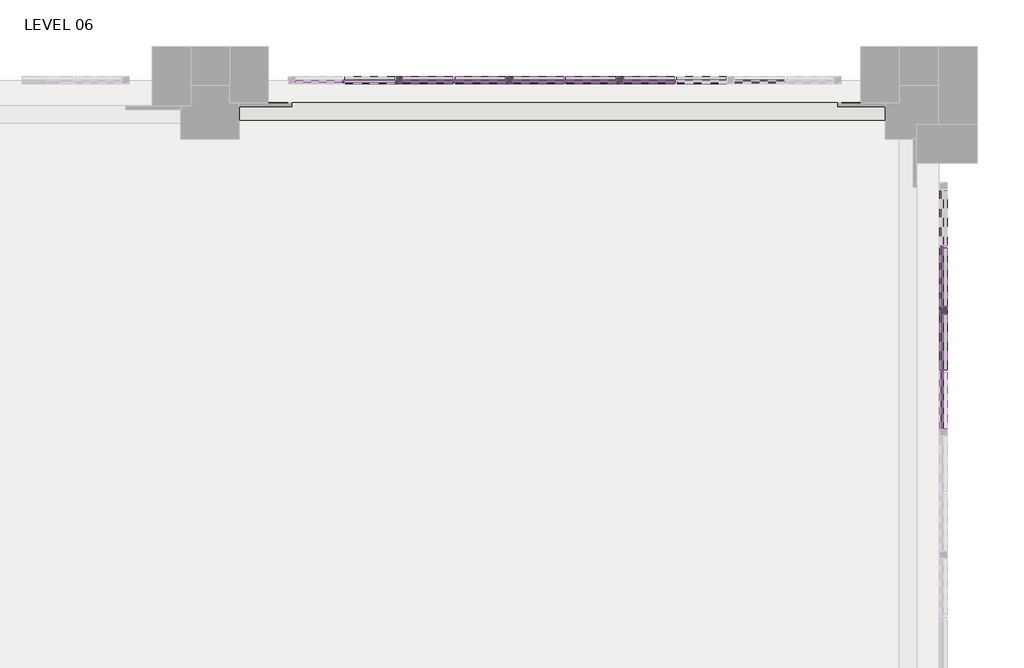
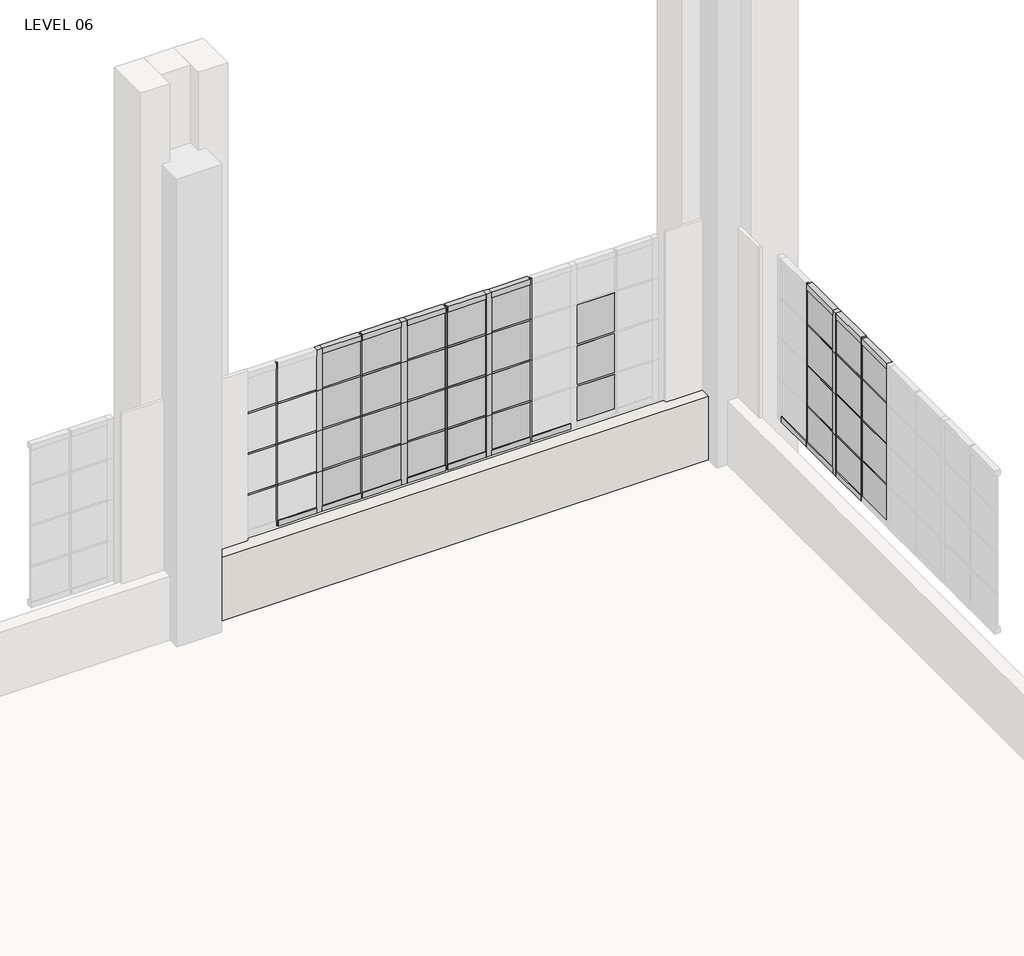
# One storey, part 15 of 16: 88 members, 35 plates, 1 wall.
"""IFC4 building model written with IfcOpenShell, lengths in millimetres."""

from ifc_helpers import new_model, si_unit, frame, origin, place, context, project, spatial, polyline, outline, extrude, transform, mapped, element, save
from components import member_78bb2ef1, member_d9fe2114, member_fd592df6, member_eeb356eb, member_dcd82389, member_f013a865, member_378e0c06, member_6e5aab5d, member_bacafba3, member_141a1acd, member_fd366a57, member_934bc167, system_panel_glazed_938f432d, system_panel_glazed_ccb3424d, system_panel_glazed_28c059df, system_panel_glazed_11270c83, system_panel_glazed_8b5984c8, system_panel_glazed_ea9a5d31, system_panel_glazed_44697018, system_panel_glazed_bf1454fd

model = new_model("IFC4")

# Units and contexts
model_context = context("Model", 3, world=origin())
ifc_project = project(units=[si_unit("LENGTHUNIT", "METRE", prefix="MILLI")], contexts=[model_context])

# Site, building, storey
site = spatial("IfcSite", under=ifc_project)
building = spatial("IfcBuilding", under=site)
storey = spatial("IfcBuildingStorey", under=building, Name="LEVEL 06", Elevation=17449.8)

# Members
placement = place(None, origin())
member_shape = member_78bb2ef1(model_context)
element("IfcMember", 1, ObjectType="Rectangular Mullion : 1\" x 1\" - Butt Joint", at=placement, inside=storey, context=model_context, shape_type="MappedRepresentation", body=[
    mapped(member_shape, transform((-445.6849596, -3421.3746451, 19989.8), x_axis=(0.0, 1.0, 0.0), y_axis=(1.0, 0.0, 0.0), z_axis=(0.0, 0.0, -1.0))),
])
element("IfcMember", 2, ObjectType="Rectangular Mullion : 1\" x 1\" - Butt Joint", at=placement, inside=storey, context=model_context, shape_type="MappedRepresentation", body=[
    mapped(member_shape, transform((-445.6849596, -2133.1748817, 19989.8), x_axis=(0.0, 1.0, 0.0), y_axis=(1.0, 0.0, 0.0), z_axis=(0.0, 0.0, -1.0))),
])
element("IfcMember", 3, ObjectType="Rectangular Mullion : 1\" x 1\" - Butt Joint", at=placement, inside=storey, context=model_context, shape_type="MappedRepresentation", body=[
    mapped(member_shape, transform((-445.6849596, -3421.3746451, 18821.4), x_axis=(0.0, 1.0, 0.0), y_axis=(1.0, 0.0, 0.0), z_axis=(0.0, 0.0, -1.0))),
])
element("IfcMember", 4, ObjectType="Rectangular Mullion : 1\" x 1\" - Butt Joint", at=placement, inside=storey, context=model_context, shape_type="MappedRepresentation", body=[
    mapped(member_shape, transform((-445.6849596, -3421.3746451, 19405.6), x_axis=(0.0, 1.0, 0.0), y_axis=(1.0, 0.0, 0.0), z_axis=(0.0, 0.0, -1.0))),
])
element("IfcMember", 5, ObjectType="Rectangular Mullion : 1\" x 1\" - Butt Joint", at=placement, inside=storey, context=model_context, shape_type="MappedRepresentation", body=[
    mapped(member_shape, transform((-445.6849596, -2133.1748817, 18821.4), x_axis=(0.0, 1.0, 0.0), y_axis=(1.0, 0.0, 0.0), z_axis=(0.0, 0.0, -1.0))),
])
element("IfcMember", 6, ObjectType="Rectangular Mullion : 1\" x 1\" - Butt Joint", at=placement, inside=storey, context=model_context, shape_type="MappedRepresentation", body=[
    mapped(member_shape, transform((-445.6849596, -2133.1748817, 19405.6), x_axis=(0.0, 1.0, 0.0), y_axis=(1.0, 0.0, 0.0), z_axis=(0.0, 0.0, -1.0))),
])
element("IfcMember", 7, ObjectType="Rectangular Mullion : 1\" x 1\" - Butt Joint", at=placement, inside=storey, context=model_context, shape_type="MappedRepresentation", body=[
    mapped(member_shape, transform((-445.6849596, -3421.3746451, 18237.2), x_axis=(0.0, 1.0, 0.0), y_axis=(1.0, 0.0, 0.0), z_axis=(0.0, 0.0, -1.0))),
])
element("IfcMember", 8, ObjectType="Rectangular Mullion : 1\" x 1\" - Butt Joint", at=placement, inside=storey, context=model_context, shape_type="MappedRepresentation", body=[
    mapped(member_shape, transform((-445.6849596, -2133.1748817, 18237.2), x_axis=(0.0, 1.0, 0.0), y_axis=(1.0, 0.0, 0.0), z_axis=(0.0, 0.0, -1.0))),
])
member_2_shape = member_d9fe2114(model_context)
element("IfcMember", 9, ObjectType="Rectangular Mullion : 1\" x 1\" - Butt Joint", at=placement, inside=storey, context=model_context, shape_type="MappedRepresentation", body=[
    mapped(member_2_shape, transform((-6124.4171519, -412.75, 19989.8), x_axis=(0.0, 0.0, 1.0), y_axis=(0.0, -1.0, 0.0), z_axis=(1.0, 0.0, 0.0))),
])
element("IfcMember", 10, ObjectType="Rectangular Mullion : 1\" x 1\" - Butt Joint", at=placement, inside=storey, context=model_context, shape_type="MappedRepresentation", body=[
    mapped(member_2_shape, transform((-4976.3371519, -412.75, 19989.8), x_axis=(0.0, 0.0, 1.0), y_axis=(0.0, -1.0, 0.0), z_axis=(1.0, 0.0, 0.0))),
])
element("IfcMember", 11, ObjectType="Rectangular Mullion : 1\" x 1\" - Butt Joint", at=placement, inside=storey, context=model_context, shape_type="MappedRepresentation", body=[
    mapped(member_2_shape, transform((-3828.2571519, -412.75, 19989.8), x_axis=(0.0, 0.0, 1.0), y_axis=(0.0, -1.0, 0.0), z_axis=(1.0, 0.0, 0.0))),
])
element("IfcMember", 12, ObjectType="Rectangular Mullion : 1\" x 1\" - Butt Joint", at=placement, inside=storey, context=model_context, shape_type="MappedRepresentation", body=[
    mapped(member_2_shape, transform((-5524.9771519, -412.75, 19989.8), x_axis=(0.0, 0.0, 1.0), y_axis=(0.0, -1.0, 0.0), z_axis=(1.0, 0.0, 0.0))),
])
element("IfcMember", 13, ObjectType="Rectangular Mullion : 1\" x 1\" - Butt Joint", at=placement, inside=storey, context=model_context, shape_type="MappedRepresentation", body=[
    mapped(member_2_shape, transform((-4376.8971519, -412.75, 19989.8), x_axis=(0.0, 0.0, 1.0), y_axis=(0.0, -1.0, 0.0), z_axis=(1.0, 0.0, 0.0))),
])
element("IfcMember", 14, ObjectType="Rectangular Mullion : 1\" x 1\" - Butt Joint", at=placement, inside=storey, context=model_context, shape_type="MappedRepresentation", body=[
    mapped(member_2_shape, transform((-3228.8171519, -412.75, 19989.8), x_axis=(0.0, 0.0, 1.0), y_axis=(0.0, -1.0, 0.0), z_axis=(1.0, 0.0, 0.0))),
])
element("IfcMember", 15, ObjectType="Rectangular Mullion : 1\" x 1\" - Butt Joint", at=placement, inside=storey, context=model_context, shape_type="MappedRepresentation", body=[
    mapped(member_2_shape, transform((-6124.4171519, -412.75, 19405.6), x_axis=(0.0, 0.0, 1.0), y_axis=(0.0, -1.0, 0.0), z_axis=(1.0, 0.0, 0.0))),
])
element("IfcMember", 16, ObjectType="Rectangular Mullion : 1\" x 1\" - Butt Joint", at=placement, inside=storey, context=model_context, shape_type="MappedRepresentation", body=[
    mapped(member_2_shape, transform((-4976.3371519, -412.75, 19405.6), x_axis=(0.0, 0.0, 1.0), y_axis=(0.0, -1.0, 0.0), z_axis=(1.0, 0.0, 0.0))),
])
element("IfcMember", 17, ObjectType="Rectangular Mullion : 1\" x 1\" - Butt Joint", at=placement, inside=storey, context=model_context, shape_type="MappedRepresentation", body=[
    mapped(member_2_shape, transform((-3828.2571519, -412.75, 19405.6), x_axis=(0.0, 0.0, 1.0), y_axis=(0.0, -1.0, 0.0), z_axis=(1.0, 0.0, 0.0))),
])
element("IfcMember", 18, ObjectType="Rectangular Mullion : 1\" x 1\" - Butt Joint", at=placement, inside=storey, context=model_context, shape_type="MappedRepresentation", body=[
    mapped(member_2_shape, transform((-5524.9771519, -412.75, 19405.6), x_axis=(0.0, 0.0, 1.0), y_axis=(0.0, -1.0, 0.0), z_axis=(1.0, 0.0, 0.0))),
])
element("IfcMember", 19, ObjectType="Rectangular Mullion : 1\" x 1\" - Butt Joint", at=placement, inside=storey, context=model_context, shape_type="MappedRepresentation", body=[
    mapped(member_2_shape, transform((-4376.8971519, -412.75, 19405.6), x_axis=(0.0, 0.0, 1.0), y_axis=(0.0, -1.0, 0.0), z_axis=(1.0, 0.0, 0.0))),
])
element("IfcMember", 20, ObjectType="Rectangular Mullion : 1\" x 1\" - Butt Joint", at=placement, inside=storey, context=model_context, shape_type="MappedRepresentation", body=[
    mapped(member_2_shape, transform((-3228.8171519, -412.75, 19405.6), x_axis=(0.0, 0.0, 1.0), y_axis=(0.0, -1.0, 0.0), z_axis=(1.0, 0.0, 0.0))),
])
element("IfcMember", 21, ObjectType="Rectangular Mullion : 1\" x 1\" - Butt Joint", at=placement, inside=storey, context=model_context, shape_type="MappedRepresentation", body=[
    mapped(member_2_shape, transform((-6124.4171519, -412.75, 18821.4), x_axis=(0.0, 0.0, 1.0), y_axis=(0.0, -1.0, 0.0), z_axis=(1.0, 0.0, 0.0))),
])
element("IfcMember", 22, ObjectType="Rectangular Mullion : 1\" x 1\" - Butt Joint", at=placement, inside=storey, context=model_context, shape_type="MappedRepresentation", body=[
    mapped(member_2_shape, transform((-4976.3371519, -412.75, 18821.4), x_axis=(0.0, 0.0, 1.0), y_axis=(0.0, -1.0, 0.0), z_axis=(1.0, 0.0, 0.0))),
])
element("IfcMember", 23, ObjectType="Rectangular Mullion : 1\" x 1\" - Butt Joint", at=placement, inside=storey, context=model_context, shape_type="MappedRepresentation", body=[
    mapped(member_2_shape, transform((-3828.2571519, -412.75, 18821.4), x_axis=(0.0, 0.0, 1.0), y_axis=(0.0, -1.0, 0.0), z_axis=(1.0, 0.0, 0.0))),
])
element("IfcMember", 24, ObjectType="Rectangular Mullion : 1\" x 1\" - Butt Joint", at=placement, inside=storey, context=model_context, shape_type="MappedRepresentation", body=[
    mapped(member_2_shape, transform((-5524.9771519, -412.75, 18821.4), x_axis=(0.0, 0.0, 1.0), y_axis=(0.0, -1.0, 0.0), z_axis=(1.0, 0.0, 0.0))),
])
element("IfcMember", 25, ObjectType="Rectangular Mullion : 1\" x 1\" - Butt Joint", at=placement, inside=storey, context=model_context, shape_type="MappedRepresentation", body=[
    mapped(member_2_shape, transform((-4376.8971519, -412.75, 18821.4), x_axis=(0.0, 0.0, 1.0), y_axis=(0.0, -1.0, 0.0), z_axis=(1.0, 0.0, 0.0))),
])
element("IfcMember", 26, ObjectType="Rectangular Mullion : 1\" x 1\" - Butt Joint", at=placement, inside=storey, context=model_context, shape_type="MappedRepresentation", body=[
    mapped(member_2_shape, transform((-3228.8171519, -412.75, 18821.4), x_axis=(0.0, 0.0, 1.0), y_axis=(0.0, -1.0, 0.0), z_axis=(1.0, 0.0, 0.0))),
])
member_3_shape = member_fd592df6(model_context)
element("IfcMember", 27, ObjectType="Rectangular Mullion : 1\" x 1\" - Butt Joint", at=placement, inside=storey, context=model_context, shape_type="MappedRepresentation", body=[
    mapped(member_3_shape, transform((-6673.0571519, -412.75, 19989.8), x_axis=(0.0, 0.0, 1.0), y_axis=(0.0, -1.0, 0.0), z_axis=(1.0, 0.0, 0.0))),
])
element("IfcMember", 28, ObjectType="Rectangular Mullion : 1\" x 1\" - Butt Joint", at=placement, inside=storey, context=model_context, shape_type="MappedRepresentation", body=[
    mapped(member_3_shape, transform((-6673.0571519, -412.75, 19405.6), x_axis=(0.0, 0.0, 1.0), y_axis=(0.0, -1.0, 0.0), z_axis=(1.0, 0.0, 0.0))),
])
element("IfcMember", 29, ObjectType="Rectangular Mullion : 1\" x 1\" - Butt Joint", at=placement, inside=storey, context=model_context, shape_type="MappedRepresentation", body=[
    mapped(member_3_shape, transform((-6673.0571519, -412.75, 18821.4), x_axis=(0.0, 0.0, 1.0), y_axis=(0.0, -1.0, 0.0), z_axis=(1.0, 0.0, 0.0))),
])
element("IfcMember", 30, ObjectType="Rectangular Mullion : 1\" x 1\" - Butt Joint", at=placement, inside=storey, context=model_context, shape_type="MappedRepresentation", body=[
    mapped(member_shape, transform((-3216.1171519, -412.75, 19989.8), x_axis=(1.0, 0.0, 0.0), y_axis=(0.0, -1.0, 0.0), z_axis=(0.0, 0.0, -1.0))),
])
element("IfcMember", 31, ObjectType="Rectangular Mullion : 1\" x 1\" - Butt Joint", at=placement, inside=storey, context=model_context, shape_type="MappedRepresentation", body=[
    mapped(member_shape, transform((-4364.1971519, -412.75, 19989.8), x_axis=(1.0, 0.0, 0.0), y_axis=(0.0, -1.0, 0.0), z_axis=(0.0, 0.0, -1.0))),
])
element("IfcMember", 32, ObjectType="Rectangular Mullion : 1\" x 1\" - Butt Joint", at=placement, inside=storey, context=model_context, shape_type="MappedRepresentation", body=[
    mapped(member_shape, transform((-5512.2771519, -412.75, 19989.8), x_axis=(1.0, 0.0, 0.0), y_axis=(0.0, -1.0, 0.0), z_axis=(0.0, 0.0, -1.0))),
])
element("IfcMember", 33, ObjectType="Rectangular Mullion : 1\" x 1\" - Butt Joint", at=placement, inside=storey, context=model_context, shape_type="MappedRepresentation", body=[
    mapped(member_shape, transform((-6660.3571519, -412.75, 19989.8), x_axis=(1.0, 0.0, 0.0), y_axis=(0.0, -1.0, 0.0), z_axis=(0.0, 0.0, -1.0))),
])
element("IfcMember", 34, ObjectType="Rectangular Mullion : 1\" x 1\" - Butt Joint", at=placement, inside=storey, context=model_context, shape_type="MappedRepresentation", body=[
    mapped(member_shape, transform((-3216.1171519, -412.75, 18821.4), x_axis=(1.0, 0.0, 0.0), y_axis=(0.0, -1.0, 0.0), z_axis=(0.0, 0.0, -1.0))),
])
element("IfcMember", 35, ObjectType="Rectangular Mullion : 1\" x 1\" - Butt Joint", at=placement, inside=storey, context=model_context, shape_type="MappedRepresentation", body=[
    mapped(member_shape, transform((-3216.1171519, -412.75, 19405.6), x_axis=(1.0, 0.0, 0.0), y_axis=(0.0, -1.0, 0.0), z_axis=(0.0, 0.0, -1.0))),
])
element("IfcMember", 36, ObjectType="Rectangular Mullion : 1\" x 1\" - Butt Joint", at=placement, inside=storey, context=model_context, shape_type="MappedRepresentation", body=[
    mapped(member_shape, transform((-4364.1971519, -412.75, 18821.4), x_axis=(1.0, 0.0, 0.0), y_axis=(0.0, -1.0, 0.0), z_axis=(0.0, 0.0, -1.0))),
])
element("IfcMember", 37, ObjectType="Rectangular Mullion : 1\" x 1\" - Butt Joint", at=placement, inside=storey, context=model_context, shape_type="MappedRepresentation", body=[
    mapped(member_shape, transform((-4364.1971519, -412.75, 19405.6), x_axis=(1.0, 0.0, 0.0), y_axis=(0.0, -1.0, 0.0), z_axis=(0.0, 0.0, -1.0))),
])
element("IfcMember", 38, ObjectType="Rectangular Mullion : 1\" x 1\" - Butt Joint", at=placement, inside=storey, context=model_context, shape_type="MappedRepresentation", body=[
    mapped(member_shape, transform((-5512.2771519, -412.75, 18821.4), x_axis=(1.0, 0.0, 0.0), y_axis=(0.0, -1.0, 0.0), z_axis=(0.0, 0.0, -1.0))),
])
element("IfcMember", 39, ObjectType="Rectangular Mullion : 1\" x 1\" - Butt Joint", at=placement, inside=storey, context=model_context, shape_type="MappedRepresentation", body=[
    mapped(member_shape, transform((-5512.2771519, -412.75, 19405.6), x_axis=(1.0, 0.0, 0.0), y_axis=(0.0, -1.0, 0.0), z_axis=(0.0, 0.0, -1.0))),
])
element("IfcMember", 40, ObjectType="Rectangular Mullion : 1\" x 1\" - Butt Joint", at=placement, inside=storey, context=model_context, shape_type="MappedRepresentation", body=[
    mapped(member_shape, transform((-6660.3571519, -412.75, 18821.4), x_axis=(1.0, 0.0, 0.0), y_axis=(0.0, -1.0, 0.0), z_axis=(0.0, 0.0, -1.0))),
])
element("IfcMember", 41, ObjectType="Rectangular Mullion : 1\" x 1\" - Butt Joint", at=placement, inside=storey, context=model_context, shape_type="MappedRepresentation", body=[
    mapped(member_shape, transform((-6660.3571519, -412.75, 19405.6), x_axis=(1.0, 0.0, 0.0), y_axis=(0.0, -1.0, 0.0), z_axis=(0.0, 0.0, -1.0))),
])
element("IfcMember", 42, ObjectType="Rectangular Mullion : 1\" x 1\" - Butt Joint", at=placement, inside=storey, context=model_context, shape_type="MappedRepresentation", body=[
    mapped(member_shape, transform((-3216.1171519, -412.75, 18237.2), x_axis=(1.0, 0.0, 0.0), y_axis=(0.0, -1.0, 0.0), z_axis=(0.0, 0.0, -1.0))),
])
element("IfcMember", 43, ObjectType="Rectangular Mullion : 1\" x 1\" - Butt Joint", at=placement, inside=storey, context=model_context, shape_type="MappedRepresentation", body=[
    mapped(member_shape, transform((-4364.1971519, -412.75, 18237.2), x_axis=(1.0, 0.0, 0.0), y_axis=(0.0, -1.0, 0.0), z_axis=(0.0, 0.0, -1.0))),
])
element("IfcMember", 44, ObjectType="Rectangular Mullion : 1\" x 1\" - Butt Joint", at=placement, inside=storey, context=model_context, shape_type="MappedRepresentation", body=[
    mapped(member_shape, transform((-5512.2771519, -412.75, 18237.2), x_axis=(1.0, 0.0, 0.0), y_axis=(0.0, -1.0, 0.0), z_axis=(0.0, 0.0, -1.0))),
])
element("IfcMember", 45, ObjectType="Rectangular Mullion : 1\" x 1\" - Butt Joint", at=placement, inside=storey, context=model_context, shape_type="MappedRepresentation", body=[
    mapped(member_shape, transform((-6660.3571519, -412.75, 18237.2), x_axis=(1.0, 0.0, 0.0), y_axis=(0.0, -1.0, 0.0), z_axis=(0.0, 0.0, -1.0))),
])
member_4_shape = member_eeb356eb(model_context)
element("IfcMember", 46, ObjectType="Rectangular Mullion : 1\" x 1\" - Butt Joint", at=placement, inside=storey, context=model_context, shape_type="MappedRepresentation", body=[
    mapped(member_4_shape, transform((-445.6849596, -3434.0746451, 19989.8), x_axis=(0.0, 0.0, 1.0), y_axis=(1.0, 0.0, 0.0), z_axis=(0.0, 1.0, 0.0))),
])
element("IfcMember", 47, ObjectType="Rectangular Mullion : 1\" x 1\" - Butt Joint", at=placement, inside=storey, context=model_context, shape_type="MappedRepresentation", body=[
    mapped(member_4_shape, transform((-445.6849596, -3434.0746451, 19405.6), x_axis=(0.0, 0.0, 1.0), y_axis=(1.0, 0.0, 0.0), z_axis=(0.0, 1.0, 0.0))),
])
element("IfcMember", 48, ObjectType="Rectangular Mullion : 1\" x 1\" - Butt Joint", at=placement, inside=storey, context=model_context, shape_type="MappedRepresentation", body=[
    mapped(member_4_shape, transform((-445.6849596, -3434.0746451, 18821.4), x_axis=(0.0, 0.0, 1.0), y_axis=(1.0, 0.0, 0.0), z_axis=(0.0, 1.0, 0.0))),
])
member_5_shape = member_dcd82389(model_context)
element("IfcMember", 49, ObjectType="Rectangular Mullion : 1\" x 1\" - Butt Joint", at=placement, inside=storey, context=model_context, shape_type="MappedRepresentation", body=[
    mapped(member_5_shape, transform((-445.6849596, -2828.0747634, 19989.8), x_axis=(0.0, 0.0, 1.0), y_axis=(1.0, 0.0, 0.0), z_axis=(0.0, 1.0, 0.0))),
])
element("IfcMember", 50, ObjectType="Rectangular Mullion : 1\" x 1\" - Butt Joint", at=placement, inside=storey, context=model_context, shape_type="MappedRepresentation", body=[
    mapped(member_5_shape, transform((-445.6849596, -2828.0747634, 19405.6), x_axis=(0.0, 0.0, 1.0), y_axis=(1.0, 0.0, 0.0), z_axis=(0.0, 1.0, 0.0))),
])
element("IfcMember", 51, ObjectType="Rectangular Mullion : 1\" x 1\" - Butt Joint", at=placement, inside=storey, context=model_context, shape_type="MappedRepresentation", body=[
    mapped(member_5_shape, transform((-445.6849596, -2828.0747634, 18821.4), x_axis=(0.0, 0.0, 1.0), y_axis=(1.0, 0.0, 0.0), z_axis=(0.0, 1.0, 0.0))),
])
member_6_shape = member_f013a865(model_context)
element("IfcMember", 52, ObjectType="Rectangular Mullion : 1\" x 1\" - Butt Joint", at=placement, inside=storey, context=model_context, shape_type="MappedRepresentation", body=[
    mapped(member_6_shape, transform((-445.6849596, -2145.8748817, 19989.8), x_axis=(0.0, 0.0, 1.0), y_axis=(1.0, 0.0, 0.0), z_axis=(0.0, 1.0, 0.0))),
])
element("IfcMember", 53, ObjectType="Rectangular Mullion : 1\" x 1\" - Butt Joint", at=placement, inside=storey, context=model_context, shape_type="MappedRepresentation", body=[
    mapped(member_6_shape, transform((-445.6849596, -2145.8748817, 19405.6), x_axis=(0.0, 0.0, 1.0), y_axis=(1.0, 0.0, 0.0), z_axis=(0.0, 1.0, 0.0))),
])
element("IfcMember", 54, ObjectType="Rectangular Mullion : 1\" x 1\" - Butt Joint", at=placement, inside=storey, context=model_context, shape_type="MappedRepresentation", body=[
    mapped(member_6_shape, transform((-445.6849596, -2145.8748817, 18821.4), x_axis=(0.0, 0.0, 1.0), y_axis=(1.0, 0.0, 0.0), z_axis=(0.0, 1.0, 0.0))),
])
member_7_shape = member_378e0c06(model_context)
element("IfcMember", 55, ObjectType="Rectangular Mullion : 3\" x 3\" Window Jamb", at=placement, inside=storey, context=model_context, shape_type="MappedRepresentation", body=[
    mapped(member_7_shape, transform((-445.6849596, -2789.9747634, 19989.8), x_axis=(0.0, 1.0, 0.0), y_axis=(1.0, 0.0, 0.0), z_axis=(0.0, 0.0, -1.0))),
])
element("IfcMember", 56, ObjectType="Rectangular Mullion : 3\" x 3\" Window Jamb", at=placement, inside=storey, context=model_context, shape_type="MappedRepresentation", body=[
    mapped(member_7_shape, transform((-445.6849596, -2789.9747634, 18821.4), x_axis=(0.0, 1.0, 0.0), y_axis=(1.0, 0.0, 0.0), z_axis=(0.0, 0.0, -1.0))),
])
element("IfcMember", 57, ObjectType="Rectangular Mullion : 3\" x 3\" Window Jamb", at=placement, inside=storey, context=model_context, shape_type="MappedRepresentation", body=[
    mapped(member_7_shape, transform((-445.6849596, -2789.9747634, 19405.6), x_axis=(0.0, 1.0, 0.0), y_axis=(1.0, 0.0, 0.0), z_axis=(0.0, 0.0, -1.0))),
])
element("IfcMember", 58, ObjectType="Rectangular Mullion : 3\" x 3\" Window Jamb", at=placement, inside=storey, context=model_context, shape_type="MappedRepresentation", body=[
    mapped(member_7_shape, transform((-445.6849596, -2789.9747634, 18237.2), x_axis=(0.0, 1.0, 0.0), y_axis=(1.0, 0.0, 0.0), z_axis=(0.0, 0.0, -1.0))),
])
member_8_shape = member_6e5aab5d(model_context)
element("IfcMember", 59, ObjectType="Rectangular Mullion : 3\" x 3\" Window Jamb", at=placement, inside=storey, context=model_context, shape_type="MappedRepresentation", body=[
    mapped(member_8_shape, transform((-5524.9771519, -412.75, 20574.0), x_axis=(0.0, 0.0, 1.0), y_axis=(0.0, -1.0, 0.0), z_axis=(1.0, 0.0, 0.0))),
])
element("IfcMember", 60, ObjectType="Rectangular Mullion : 3\" x 3\" Window Jamb", at=placement, inside=storey, context=model_context, shape_type="MappedRepresentation", body=[
    mapped(member_8_shape, transform((-4376.8971519, -412.75, 20574.0), x_axis=(0.0, 0.0, 1.0), y_axis=(0.0, -1.0, 0.0), z_axis=(1.0, 0.0, 0.0))),
])
element("IfcMember", 61, ObjectType="Rectangular Mullion : 3\" x 3\" Window Jamb", at=placement, inside=storey, context=model_context, shape_type="MappedRepresentation", body=[
    mapped(member_8_shape, transform((-3228.8171519, -412.75, 20574.0), x_axis=(0.0, 0.0, 1.0), y_axis=(0.0, -1.0, 0.0), z_axis=(1.0, 0.0, 0.0))),
])
element("IfcMember", 62, ObjectType="Rectangular Mullion : 3\" x 3\" Window Jamb", at=placement, inside=storey, context=model_context, shape_type="MappedRepresentation", body=[
    mapped(member_8_shape, transform((-4976.3371519, -412.75, 20574.0), x_axis=(0.0, 0.0, 1.0), y_axis=(0.0, -1.0, 0.0), z_axis=(1.0, 0.0, 0.0))),
])
element("IfcMember", 63, ObjectType="Rectangular Mullion : 3\" x 3\" Window Jamb", at=placement, inside=storey, context=model_context, shape_type="MappedRepresentation", body=[
    mapped(member_8_shape, transform((-3828.2571519, -412.75, 20574.0), x_axis=(0.0, 0.0, 1.0), y_axis=(0.0, -1.0, 0.0), z_axis=(1.0, 0.0, 0.0))),
])
element("IfcMember", 64, ObjectType="Rectangular Mullion : 3\" x 3\" Window Jamb", at=placement, inside=storey, context=model_context, shape_type="MappedRepresentation", body=[
    mapped(member_8_shape, transform((-6647.6571519, -412.75, 18237.2), x_axis=(0.0, 0.0, -1.0), y_axis=(0.0, -1.0, 0.0), z_axis=(-1.0, 0.0, 0.0))),
])
element("IfcMember", 65, ObjectType="Rectangular Mullion : 3\" x 3\" Window Jamb", at=placement, inside=storey, context=model_context, shape_type="MappedRepresentation", body=[
    mapped(member_8_shape, transform((-5499.5771519, -412.75, 18237.2), x_axis=(0.0, 0.0, -1.0), y_axis=(0.0, -1.0, 0.0), z_axis=(-1.0, 0.0, 0.0))),
])
element("IfcMember", 66, ObjectType="Rectangular Mullion : 3\" x 3\" Window Jamb", at=placement, inside=storey, context=model_context, shape_type="MappedRepresentation", body=[
    mapped(member_8_shape, transform((-4351.4971519, -412.75, 18237.2), x_axis=(0.0, 0.0, -1.0), y_axis=(0.0, -1.0, 0.0), z_axis=(-1.0, 0.0, 0.0))),
])
element("IfcMember", 67, ObjectType="Rectangular Mullion : 3\" x 3\" Window Jamb", at=placement, inside=storey, context=model_context, shape_type="MappedRepresentation", body=[
    mapped(member_8_shape, transform((-3203.4171519, -412.75, 18237.2), x_axis=(0.0, 0.0, -1.0), y_axis=(0.0, -1.0, 0.0), z_axis=(-1.0, 0.0, 0.0))),
])
element("IfcMember", 68, ObjectType="Rectangular Mullion : 3\" x 3\" Window Jamb", at=placement, inside=storey, context=model_context, shape_type="MappedRepresentation", body=[
    mapped(member_8_shape, transform((-6048.2171519, -412.75, 18237.2), x_axis=(0.0, 0.0, -1.0), y_axis=(0.0, -1.0, 0.0), z_axis=(-1.0, 0.0, 0.0))),
])
element("IfcMember", 69, ObjectType="Rectangular Mullion : 3\" x 3\" Window Jamb", at=placement, inside=storey, context=model_context, shape_type="MappedRepresentation", body=[
    mapped(member_8_shape, transform((-4900.1371519, -412.75, 18237.2), x_axis=(0.0, 0.0, -1.0), y_axis=(0.0, -1.0, 0.0), z_axis=(-1.0, 0.0, 0.0))),
])
element("IfcMember", 70, ObjectType="Rectangular Mullion : 3\" x 3\" Window Jamb", at=placement, inside=storey, context=model_context, shape_type="MappedRepresentation", body=[
    mapped(member_8_shape, transform((-3752.0571519, -412.75, 18237.2), x_axis=(0.0, 0.0, -1.0), y_axis=(0.0, -1.0, 0.0), z_axis=(-1.0, 0.0, 0.0))),
])
member_9_shape = member_bacafba3(model_context)
element("IfcMember", 71, ObjectType="Rectangular Mullion : 3\" x 3\" Window Jamb", at=placement, inside=storey, context=model_context, shape_type="MappedRepresentation", body=[
    mapped(member_9_shape, transform((-3790.1571519, -412.75, 19989.8), x_axis=(1.0, 0.0, 0.0), y_axis=(0.0, -1.0, 0.0), z_axis=(0.0, 0.0, -1.0))),
])
element("IfcMember", 72, ObjectType="Rectangular Mullion : 3\" x 3\" Window Jamb", at=placement, inside=storey, context=model_context, shape_type="MappedRepresentation", body=[
    mapped(member_9_shape, transform((-4938.2371519, -412.75, 19989.8), x_axis=(1.0, 0.0, 0.0), y_axis=(0.0, -1.0, 0.0), z_axis=(0.0, 0.0, -1.0))),
])
element("IfcMember", 73, ObjectType="Rectangular Mullion : 3\" x 3\" Window Jamb", at=placement, inside=storey, context=model_context, shape_type="MappedRepresentation", body=[
    mapped(member_9_shape, transform((-6086.3171519, -412.75, 19989.8), x_axis=(1.0, 0.0, 0.0), y_axis=(0.0, -1.0, 0.0), z_axis=(0.0, 0.0, -1.0))),
])
element("IfcMember", 74, ObjectType="Rectangular Mullion : 3\" x 3\" Window Jamb", at=placement, inside=storey, context=model_context, shape_type="MappedRepresentation", body=[
    mapped(member_9_shape, transform((-3790.1571519, -412.75, 18821.4), x_axis=(1.0, 0.0, 0.0), y_axis=(0.0, -1.0, 0.0), z_axis=(0.0, 0.0, -1.0))),
])
element("IfcMember", 75, ObjectType="Rectangular Mullion : 3\" x 3\" Window Jamb", at=placement, inside=storey, context=model_context, shape_type="MappedRepresentation", body=[
    mapped(member_9_shape, transform((-3790.1571519, -412.75, 19405.6), x_axis=(1.0, 0.0, 0.0), y_axis=(0.0, -1.0, 0.0), z_axis=(0.0, 0.0, -1.0))),
])
element("IfcMember", 76, ObjectType="Rectangular Mullion : 3\" x 3\" Window Jamb", at=placement, inside=storey, context=model_context, shape_type="MappedRepresentation", body=[
    mapped(member_9_shape, transform((-4938.2371519, -412.75, 18821.4), x_axis=(1.0, 0.0, 0.0), y_axis=(0.0, -1.0, 0.0), z_axis=(0.0, 0.0, -1.0))),
])
element("IfcMember", 77, ObjectType="Rectangular Mullion : 3\" x 3\" Window Jamb", at=placement, inside=storey, context=model_context, shape_type="MappedRepresentation", body=[
    mapped(member_9_shape, transform((-4938.2371519, -412.75, 19405.6), x_axis=(1.0, 0.0, 0.0), y_axis=(0.0, -1.0, 0.0), z_axis=(0.0, 0.0, -1.0))),
])
element("IfcMember", 78, ObjectType="Rectangular Mullion : 3\" x 3\" Window Jamb", at=placement, inside=storey, context=model_context, shape_type="MappedRepresentation", body=[
    mapped(member_9_shape, transform((-6086.3171519, -412.75, 18821.4), x_axis=(1.0, 0.0, 0.0), y_axis=(0.0, -1.0, 0.0), z_axis=(0.0, 0.0, -1.0))),
])
element("IfcMember", 79, ObjectType="Rectangular Mullion : 3\" x 3\" Window Jamb", at=placement, inside=storey, context=model_context, shape_type="MappedRepresentation", body=[
    mapped(member_9_shape, transform((-6086.3171519, -412.75, 19405.6), x_axis=(1.0, 0.0, 0.0), y_axis=(0.0, -1.0, 0.0), z_axis=(0.0, 0.0, -1.0))),
])
element("IfcMember", 80, ObjectType="Rectangular Mullion : 3\" x 3\" Window Jamb", at=placement, inside=storey, context=model_context, shape_type="MappedRepresentation", body=[
    mapped(member_9_shape, transform((-3790.1571519, -412.75, 18237.2), x_axis=(1.0, 0.0, 0.0), y_axis=(0.0, -1.0, 0.0), z_axis=(0.0, 0.0, -1.0))),
])
element("IfcMember", 81, ObjectType="Rectangular Mullion : 3\" x 3\" Window Jamb", at=placement, inside=storey, context=model_context, shape_type="MappedRepresentation", body=[
    mapped(member_9_shape, transform((-4938.2371519, -412.75, 18237.2), x_axis=(1.0, 0.0, 0.0), y_axis=(0.0, -1.0, 0.0), z_axis=(0.0, 0.0, -1.0))),
])
element("IfcMember", 82, ObjectType="Rectangular Mullion : 3\" x 3\" Window Jamb", at=placement, inside=storey, context=model_context, shape_type="MappedRepresentation", body=[
    mapped(member_9_shape, transform((-6086.3171519, -412.75, 18237.2), x_axis=(1.0, 0.0, 0.0), y_axis=(0.0, -1.0, 0.0), z_axis=(0.0, 0.0, -1.0))),
])
member_10_shape = member_141a1acd(model_context)
element("IfcMember", 83, ObjectType="Rectangular Mullion : 3\" x 3\" Window Jamb", at=placement, inside=storey, context=model_context, shape_type="MappedRepresentation", body=[
    mapped(member_10_shape, transform((-445.6849596, -3434.0746451, 20574.0), x_axis=(0.0, 0.0, 1.0), y_axis=(1.0, 0.0, 0.0), z_axis=(0.0, 1.0, 0.0))),
])
member_11_shape = member_fd366a57(model_context)
element("IfcMember", 84, ObjectType="Rectangular Mullion : 3\" x 3\" Window Jamb", at=placement, inside=storey, context=model_context, shape_type="MappedRepresentation", body=[
    mapped(member_11_shape, transform((-445.6849596, -2828.0747634, 20574.0), x_axis=(0.0, 0.0, 1.0), y_axis=(1.0, 0.0, 0.0), z_axis=(0.0, 1.0, 0.0))),
])
element("IfcMember", 85, ObjectType="Rectangular Mullion : 3\" x 3\" Window Jamb", at=placement, inside=storey, context=model_context, shape_type="MappedRepresentation", body=[
    mapped(member_11_shape, transform((-445.6849596, -2120.4748817, 18237.2), x_axis=(0.0, 0.0, -1.0), y_axis=(1.0, 0.0, 0.0), z_axis=(0.0, -1.0, 0.0))),
])
element("IfcMember", 86, ObjectType="Rectangular Mullion : 3\" x 3\" Window Jamb", at=placement, inside=storey, context=model_context, shape_type="MappedRepresentation", body=[
    mapped(member_11_shape, transform((-445.6849596, -3408.6746451, 18237.2), x_axis=(0.0, 0.0, -1.0), y_axis=(1.0, 0.0, 0.0), z_axis=(0.0, -1.0, 0.0))),
])
member_12_shape = member_934bc167(model_context)
element("IfcMember", 87, ObjectType="Rectangular Mullion : 3\" x 3\" Window Jamb", at=placement, inside=storey, context=model_context, shape_type="MappedRepresentation", body=[
    mapped(member_12_shape, transform((-445.6849596, -2145.8748817, 20574.0), x_axis=(0.0, 0.0, 1.0), y_axis=(1.0, 0.0, 0.0), z_axis=(0.0, 1.0, 0.0))),
])
element("IfcMember", 88, ObjectType="Rectangular Mullion : 3\" x 3\" Window Jamb", at=placement, inside=storey, context=model_context, shape_type="MappedRepresentation", body=[
    mapped(member_12_shape, transform((-445.6849596, -2751.8747634, 18237.2), x_axis=(0.0, 0.0, -1.0), y_axis=(1.0, 0.0, 0.0), z_axis=(0.0, -1.0, 0.0))),
])

# Plates
system_panel_glazed_shape = system_panel_glazed_938f432d(model_context)
element("IfcPlate", 89, ObjectType="System Panel : Glazed", at=placement, inside=storey, context=model_context, shape_type="MappedRepresentation", body=[
    mapped(system_panel_glazed_shape, transform((-445.6849596, -3727.867086, 18313.4), x_axis=(0.0, 1.0, 0.0), y_axis=(-1.0, 0.0, 0.0), z_axis=(0.0, 0.0, 1.0))),
])
element("IfcPlate", 90, ObjectType="System Panel : Glazed", at=placement, inside=storey, context=model_context, shape_type="MappedRepresentation", body=[
    mapped(system_panel_glazed_shape, transform((-445.6849596, -3727.867086, 20002.5), x_axis=(0.0, 1.0, 0.0), y_axis=(-1.0, 0.0, 0.0), z_axis=(0.0, 0.0, 1.0))),
])
system_panel_glazed_2_shape = system_panel_glazed_ccb3424d(model_context)
element("IfcPlate", 91, ObjectType="System Panel : Glazed", at=placement, inside=storey, context=model_context, shape_type="MappedRepresentation", body=[
    mapped(system_panel_glazed_2_shape, transform((-445.6849596, -2448.8748226, 18313.4), x_axis=(0.0, 1.0, 0.0), y_axis=(-1.0, 0.0, 0.0), z_axis=(0.0, 0.0, 1.0))),
])
element("IfcPlate", 92, ObjectType="System Panel : Glazed", at=placement, inside=storey, context=model_context, shape_type="MappedRepresentation", body=[
    mapped(system_panel_glazed_2_shape, transform((-445.6849596, -2448.8748226, 20002.5), x_axis=(0.0, 1.0, 0.0), y_axis=(-1.0, 0.0, 0.0), z_axis=(0.0, 0.0, 1.0))),
])
system_panel_glazed_3_shape = system_panel_glazed_28c059df(model_context)
element("IfcPlate", 93, ObjectType="System Panel : Glazed", at=placement, inside=storey, context=model_context, shape_type="MappedRepresentation", body=[
    mapped(system_panel_glazed_3_shape, transform((-445.6849596, -3727.867086, 19418.3), x_axis=(0.0, 1.0, 0.0), y_axis=(-1.0, 0.0, 0.0), z_axis=(0.0, 0.0, 1.0))),
])
element("IfcPlate", 94, ObjectType="System Panel : Glazed", at=placement, inside=storey, context=model_context, shape_type="MappedRepresentation", body=[
    mapped(system_panel_glazed_3_shape, transform((-445.6849596, -3727.867086, 18834.1), x_axis=(0.0, 1.0, 0.0), y_axis=(-1.0, 0.0, 0.0), z_axis=(0.0, 0.0, 1.0))),
])
system_panel_glazed_4_shape = system_panel_glazed_11270c83(model_context)
element("IfcPlate", 95, ObjectType="System Panel : Glazed", at=placement, inside=storey, context=model_context, shape_type="MappedRepresentation", body=[
    mapped(system_panel_glazed_4_shape, transform((-445.6849596, -2448.8748226, 19418.3), x_axis=(0.0, 1.0, 0.0), y_axis=(-1.0, 0.0, 0.0), z_axis=(0.0, 0.0, 1.0))),
])
element("IfcPlate", 96, ObjectType="System Panel : Glazed", at=placement, inside=storey, context=model_context, shape_type="MappedRepresentation", body=[
    mapped(system_panel_glazed_4_shape, transform((-445.6849596, -2448.8748226, 18834.1), x_axis=(0.0, 1.0, 0.0), y_axis=(-1.0, 0.0, 0.0), z_axis=(0.0, 0.0, 1.0))),
])
system_panel_glazed_5_shape = system_panel_glazed_8b5984c8(model_context)
element("IfcPlate", 97, ObjectType="System Panel : Glazed", at=placement, inside=storey, context=model_context, shape_type="MappedRepresentation", body=[
    mapped(system_panel_glazed_5_shape, transform((-445.6849596, -3118.3747043, 18313.4), x_axis=(0.0, 1.0, 0.0), y_axis=(-1.0, 0.0, 0.0), z_axis=(0.0, 0.0, 1.0))),
])
element("IfcPlate", 98, ObjectType="System Panel : Glazed", at=placement, inside=storey, context=model_context, shape_type="MappedRepresentation", body=[
    mapped(system_panel_glazed_5_shape, transform((-445.6849596, -3118.3747043, 20002.5), x_axis=(0.0, 1.0, 0.0), y_axis=(-1.0, 0.0, 0.0), z_axis=(0.0, 0.0, 1.0))),
])
system_panel_glazed_6_shape = system_panel_glazed_ea9a5d31(model_context)
element("IfcPlate", 99, ObjectType="System Panel : Glazed", at=placement, inside=storey, context=model_context, shape_type="MappedRepresentation", body=[
    mapped(system_panel_glazed_6_shape, transform((-445.6849596, -3118.3747043, 18834.1), x_axis=(0.0, 1.0, 0.0), y_axis=(-1.0, 0.0, 0.0), z_axis=(0.0, 0.0, 1.0))),
])
element("IfcPlate", 100, ObjectType="System Panel : Glazed", at=placement, inside=storey, context=model_context, shape_type="MappedRepresentation", body=[
    mapped(system_panel_glazed_6_shape, transform((-445.6849596, -3118.3747043, 19418.3), x_axis=(0.0, 1.0, 0.0), y_axis=(-1.0, 0.0, 0.0), z_axis=(0.0, 0.0, 1.0))),
])
system_panel_glazed_7_shape = system_panel_glazed_44697018(model_context)
element("IfcPlate", 101, ObjectType="System Panel : Glazed", at=placement, inside=storey, context=model_context, shape_type="MappedRepresentation", body=[
    mapped(system_panel_glazed_7_shape, transform((-2342.3571519, -412.75, 18313.4), x_axis=(1.0, 0.0, 0.0), y_axis=(0.0, 1.0, 0.0), z_axis=(0.0, 0.0, 1.0))),
])
element("IfcPlate", 102, ObjectType="System Panel : Glazed", at=placement, inside=storey, context=model_context, shape_type="MappedRepresentation", body=[
    mapped(system_panel_glazed_7_shape, transform((-3490.4371519, -412.75, 18313.4), x_axis=(1.0, 0.0, 0.0), y_axis=(0.0, 1.0, 0.0), z_axis=(0.0, 0.0, 1.0))),
])
element("IfcPlate", 103, ObjectType="System Panel : Glazed", at=placement, inside=storey, context=model_context, shape_type="MappedRepresentation", body=[
    mapped(system_panel_glazed_7_shape, transform((-4638.5171519, -412.75, 18313.4), x_axis=(1.0, 0.0, 0.0), y_axis=(0.0, 1.0, 0.0), z_axis=(0.0, 0.0, 1.0))),
])
element("IfcPlate", 104, ObjectType="System Panel : Glazed", at=placement, inside=storey, context=model_context, shape_type="MappedRepresentation", body=[
    mapped(system_panel_glazed_7_shape, transform((-5786.5971519, -412.75, 18313.4), x_axis=(1.0, 0.0, 0.0), y_axis=(0.0, 1.0, 0.0), z_axis=(0.0, 0.0, 1.0))),
])
element("IfcPlate", 105, ObjectType="System Panel : Glazed", at=placement, inside=storey, context=model_context, shape_type="MappedRepresentation", body=[
    mapped(system_panel_glazed_7_shape, transform((-5786.5971519, -412.75, 20002.5), x_axis=(1.0, 0.0, 0.0), y_axis=(0.0, 1.0, 0.0), z_axis=(0.0, 0.0, 1.0))),
])
element("IfcPlate", 106, ObjectType="System Panel : Glazed", at=placement, inside=storey, context=model_context, shape_type="MappedRepresentation", body=[
    mapped(system_panel_glazed_7_shape, transform((-4638.5171519, -412.75, 20002.5), x_axis=(1.0, 0.0, 0.0), y_axis=(0.0, 1.0, 0.0), z_axis=(0.0, 0.0, 1.0))),
])
element("IfcPlate", 107, ObjectType="System Panel : Glazed", at=placement, inside=storey, context=model_context, shape_type="MappedRepresentation", body=[
    mapped(system_panel_glazed_7_shape, transform((-3490.4371519, -412.75, 20002.5), x_axis=(1.0, 0.0, 0.0), y_axis=(0.0, 1.0, 0.0), z_axis=(0.0, 0.0, 1.0))),
])
element("IfcPlate", 108, ObjectType="System Panel : Glazed", at=placement, inside=storey, context=model_context, shape_type="MappedRepresentation", body=[
    mapped(system_panel_glazed_7_shape, transform((-4089.8771519, -412.75, 18313.4), x_axis=(1.0, 0.0, 0.0), y_axis=(0.0, 1.0, 0.0), z_axis=(0.0, 0.0, 1.0))),
])
element("IfcPlate", 109, ObjectType="System Panel : Glazed", at=placement, inside=storey, context=model_context, shape_type="MappedRepresentation", body=[
    mapped(system_panel_glazed_7_shape, transform((-4089.8771519, -412.75, 20002.5), x_axis=(1.0, 0.0, 0.0), y_axis=(0.0, 1.0, 0.0), z_axis=(0.0, 0.0, 1.0))),
])
element("IfcPlate", 110, ObjectType="System Panel : Glazed", at=placement, inside=storey, context=model_context, shape_type="MappedRepresentation", body=[
    mapped(system_panel_glazed_7_shape, transform((-5237.9571519, -412.75, 18313.4), x_axis=(1.0, 0.0, 0.0), y_axis=(0.0, 1.0, 0.0), z_axis=(0.0, 0.0, 1.0))),
])
element("IfcPlate", 111, ObjectType="System Panel : Glazed", at=placement, inside=storey, context=model_context, shape_type="MappedRepresentation", body=[
    mapped(system_panel_glazed_7_shape, transform((-5237.9571519, -412.75, 20002.5), x_axis=(1.0, 0.0, 0.0), y_axis=(0.0, 1.0, 0.0), z_axis=(0.0, 0.0, 1.0))),
])
system_panel_glazed_8_shape = system_panel_glazed_bf1454fd(model_context)
element("IfcPlate", 112, ObjectType="System Panel : Glazed", at=placement, inside=storey, context=model_context, shape_type="MappedRepresentation", body=[
    mapped(system_panel_glazed_8_shape, transform((-5786.5971519, -412.75, 19418.3), x_axis=(1.0, 0.0, 0.0), y_axis=(0.0, 1.0, 0.0), z_axis=(0.0, 0.0, 1.0))),
])
element("IfcPlate", 113, ObjectType="System Panel : Glazed", at=placement, inside=storey, context=model_context, shape_type="MappedRepresentation", body=[
    mapped(system_panel_glazed_8_shape, transform((-4638.5171519, -412.75, 19418.3), x_axis=(1.0, 0.0, 0.0), y_axis=(0.0, 1.0, 0.0), z_axis=(0.0, 0.0, 1.0))),
])
element("IfcPlate", 114, ObjectType="System Panel : Glazed", at=placement, inside=storey, context=model_context, shape_type="MappedRepresentation", body=[
    mapped(system_panel_glazed_8_shape, transform((-3490.4371519, -412.75, 19418.3), x_axis=(1.0, 0.0, 0.0), y_axis=(0.0, 1.0, 0.0), z_axis=(0.0, 0.0, 1.0))),
])
element("IfcPlate", 115, ObjectType="System Panel : Glazed", at=placement, inside=storey, context=model_context, shape_type="MappedRepresentation", body=[
    mapped(system_panel_glazed_8_shape, transform((-2342.3571519, -412.75, 19418.3), x_axis=(1.0, 0.0, 0.0), y_axis=(0.0, 1.0, 0.0), z_axis=(0.0, 0.0, 1.0))),
])
element("IfcPlate", 116, ObjectType="System Panel : Glazed", at=placement, inside=storey, context=model_context, shape_type="MappedRepresentation", body=[
    mapped(system_panel_glazed_8_shape, transform((-5786.5971519, -412.75, 18834.1), x_axis=(1.0, 0.0, 0.0), y_axis=(0.0, 1.0, 0.0), z_axis=(0.0, 0.0, 1.0))),
])
element("IfcPlate", 117, ObjectType="System Panel : Glazed", at=placement, inside=storey, context=model_context, shape_type="MappedRepresentation", body=[
    mapped(system_panel_glazed_8_shape, transform((-4638.5171519, -412.75, 18834.1), x_axis=(1.0, 0.0, 0.0), y_axis=(0.0, 1.0, 0.0), z_axis=(0.0, 0.0, 1.0))),
])
element("IfcPlate", 118, ObjectType="System Panel : Glazed", at=placement, inside=storey, context=model_context, shape_type="MappedRepresentation", body=[
    mapped(system_panel_glazed_8_shape, transform((-3490.4371519, -412.75, 18834.1), x_axis=(1.0, 0.0, 0.0), y_axis=(0.0, 1.0, 0.0), z_axis=(0.0, 0.0, 1.0))),
])
element("IfcPlate", 119, ObjectType="System Panel : Glazed", at=placement, inside=storey, context=model_context, shape_type="MappedRepresentation", body=[
    mapped(system_panel_glazed_8_shape, transform((-2342.3571519, -412.75, 18834.1), x_axis=(1.0, 0.0, 0.0), y_axis=(0.0, 1.0, 0.0), z_axis=(0.0, 0.0, 1.0))),
])
element("IfcPlate", 120, ObjectType="System Panel : Glazed", at=placement, inside=storey, context=model_context, shape_type="MappedRepresentation", body=[
    mapped(system_panel_glazed_8_shape, transform((-4089.8771519, -412.75, 18834.1), x_axis=(1.0, 0.0, 0.0), y_axis=(0.0, 1.0, 0.0), z_axis=(0.0, 0.0, 1.0))),
])
element("IfcPlate", 121, ObjectType="System Panel : Glazed", at=placement, inside=storey, context=model_context, shape_type="MappedRepresentation", body=[
    mapped(system_panel_glazed_8_shape, transform((-4089.8771519, -412.75, 19418.3), x_axis=(1.0, 0.0, 0.0), y_axis=(0.0, 1.0, 0.0), z_axis=(0.0, 0.0, 1.0))),
])
element("IfcPlate", 122, ObjectType="System Panel : Glazed", at=placement, inside=storey, context=model_context, shape_type="MappedRepresentation", body=[
    mapped(system_panel_glazed_8_shape, transform((-5237.9571519, -412.75, 18834.1), x_axis=(1.0, 0.0, 0.0), y_axis=(0.0, 1.0, 0.0), z_axis=(0.0, 0.0, 1.0))),
])
element("IfcPlate", 123, ObjectType="System Panel : Glazed", at=placement, inside=storey, context=model_context, shape_type="MappedRepresentation", body=[
    mapped(system_panel_glazed_8_shape, transform((-5237.9571519, -412.75, 19418.3), x_axis=(1.0, 0.0, 0.0), y_axis=(0.0, 1.0, 0.0), z_axis=(0.0, 0.0, 1.0))),
])

# Wall
element("IfcWall", 124, ObjectType="Partition A6_", at=placement, inside=storey, context=model_context, shape_type="SweptSolid", body=[
    extrude(outline(polyline([(-7742.4721136, -631.825), (-1036.2349596, -631.825), (-1036.2349596, -815.975), (-7742.4721136, -815.975), (-7742.4721136, -631.825)])), frame((0.0, 0.0, 17449.8), z_axis=(0.0, 0.0, 1.0), x_axis=(1.0, 0.0, 0.0)), (0.0, 0.0, 1.0), 914.4),
])

save(model, "model.ifc")
